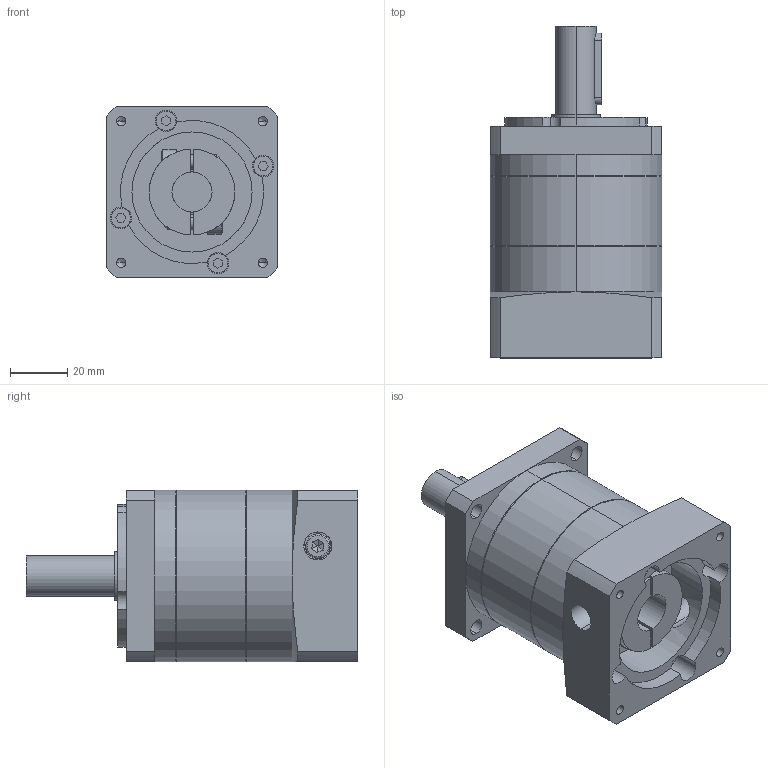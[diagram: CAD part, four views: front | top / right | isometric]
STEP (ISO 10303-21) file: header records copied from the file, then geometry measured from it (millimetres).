
FILE_DESCRIPTION (( 'STEP AP203' ), '1' );
FILE_NAME ('PLF060-L1 14-50-70-M4.STEP', '2020-06-29T02:18:11', ( '微软用户' ), ( '微软中国' ), 'SwSTEP 2.0', 'SolidWorks 2014', '' );
FILE_SCHEMA (( 'CONFIG_CONTROL_DESIGN' ));
Length unit declared in the file: millimetre
Products named in the file (7): XHF060-蟀諉啣; す瑩5-5-25; GB894．1-86轴用弹性挡圈A型17; 內六角螺絲M5_M5x15L; 內六角螺絲M4_16L; PLF060-L1 14-50-70-M4; PLF060-CQ01_L1
Assembly tree (10 placements, depth 2):
  PLF060-L1 14-50-70-M4
    PLF060-CQ01_L1
    XHF060-蟀諉啣
    す瑩5-5-25
    GB894．1-86轴用弹性挡圈A型17
    內六角螺絲M5_M5x15L  x2
    內六角螺絲M4_16L  x4
Bounding box: 60 x 116 x 60 mm (x, y, z)
Volume: 230283.8 mm3; surface area: 45069.2 mm2
Topology: 10 solids, 10 shells, 382 faces, 896 edges, 563 vertices
Faces by surface type: plane 164, cylinder 158, cone 40, torus 20
Entity records: 10049 total; most frequent: CARTESIAN_POINT 1946, DIRECTION 1634, ORIENTED_EDGE 1424, EDGE_CURVE 712, AXIS2_PLACEMENT_3D 634, VERTEX_POINT 458, LINE 366, VECTOR 366
